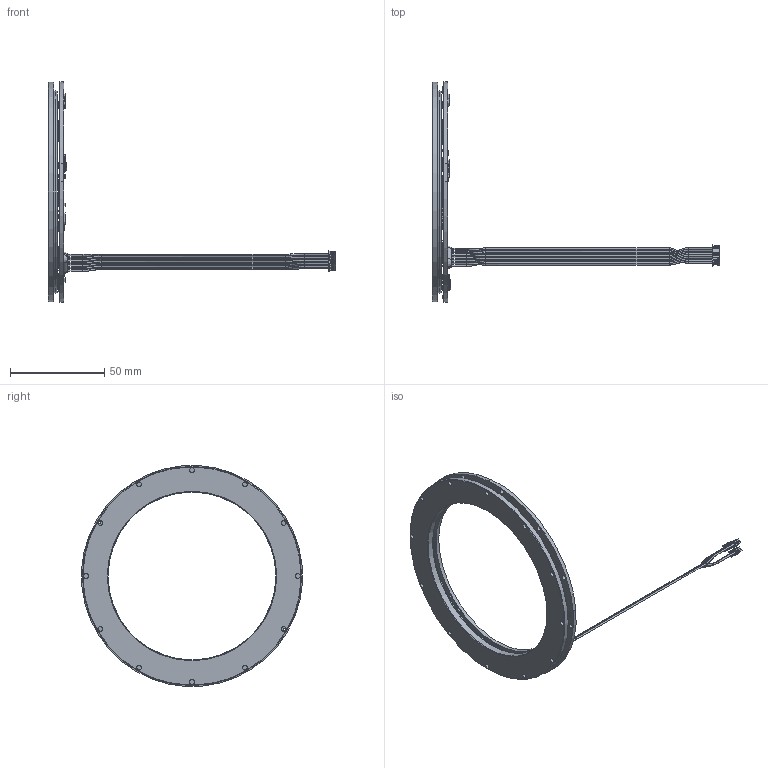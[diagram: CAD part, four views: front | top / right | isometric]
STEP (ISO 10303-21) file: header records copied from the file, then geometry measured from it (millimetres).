
FILE_DESCRIPTION(/* description */ (''),/* implementation_level */ '2;1');
FILE_NAME(/* name */ 'EAS-049.stp',/* time_stamp */ '2025-10-29T11:19:54+08:00',/* author */ (''),/* organization */ (''),/* preprocessor_version */ 'ST-DEVELOPER v15',/* originating_system */ 'SIEMENS PLM Software NX 8.5',/* authorisation */ '');
FILE_SCHEMA (('AUTOMOTIVE_DESIGN { 1 0 10303 214 3 1 1 1 }'));
Products named in the file (1): LeiX24AC870Du05x
Bounding box: 152.2 x 116.76 x 116.76 mm (x, y, z)
Volume: 28092.2 mm3; surface area: 34254.2 mm2
Topology: 302 solids, 318 shells, 5505 faces, 13756 edges, 8743 vertices
Faces by surface type: plane 4035, cylinder 1077, sphere 260, bspline 109, extrusion 12, torus 8, cone 4
Full cylindrical faces by diameter (mm): 0.35 x12, 0.6 x12, 0.9 x48, 1 x2, 2.5 x24, 88.8 x1, 89 x1, 90.5 x1, 106.5 x1, 107 x1, 116 x1
Entity records: 172777 total; most frequent: CARTESIAN_POINT 37810, ORIENTED_EDGE 26684, DIRECTION 25835, EDGE_CURVE 13342, VECTOR 10711, LINE 10699, VERTEX_POINT 8672, AXIS2_PLACEMENT_3D 7562
